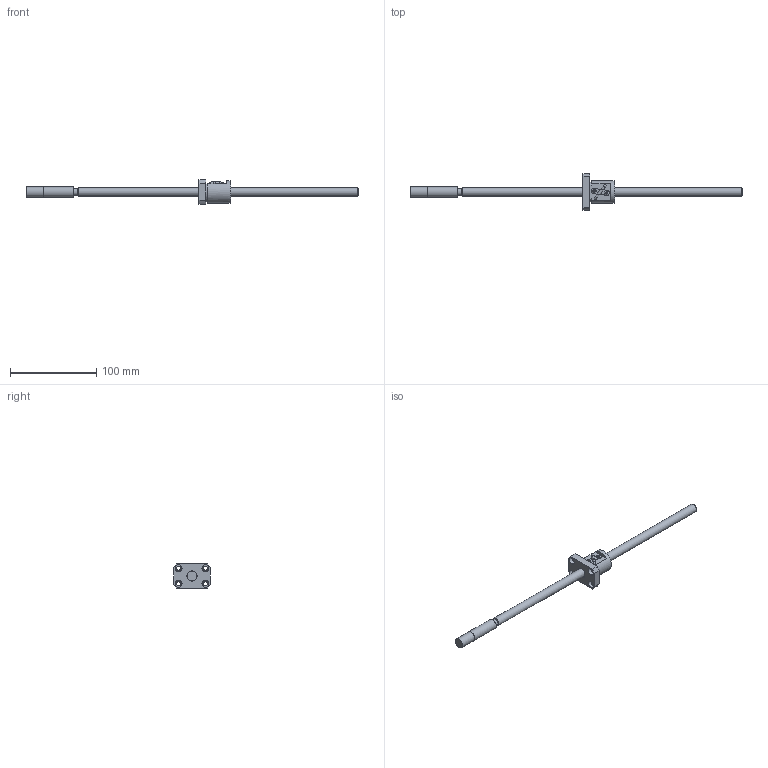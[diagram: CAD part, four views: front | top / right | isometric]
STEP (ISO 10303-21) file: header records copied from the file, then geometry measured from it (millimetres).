
FILE_DESCRIPTION((''),'2;1');
FILE_NAME('D:\製品 (図面)\カタログ用3D\ネジ関連\STEP形式\KBS(C)\KBS(C)1004-385.stp','2010-06-02T09:14:59',('Tsuchiya'),(''),'Autodesk Inventor 10','Autodesk Inventor 10','');
FILE_SCHEMA(('AUTOMOTIVE_DESIGN { 1 0 10303 214 1 1 1 1 }'));
Length unit declared in the file: millimetre
Products named in the file (3): KBS(C)1004-385; KBS(C)1004-3851; KBS(C)1004-3852
Assembly tree (2 placements, depth 2):
  KBS(C)1004-385
    KBS(C)1004-3851
    KBS(C)1004-3852
Bounding box: 385 x 42 x 28 mm (x, y, z)
Volume: 51058.6 mm3; surface area: 20304.6 mm2
Topology: 2 solids, 2 shells, 103 faces, 261 edges, 172 vertices
Faces by surface type: plane 42, cylinder 36, bspline 20, cone 3, torus 2
Full cylindrical faces by diameter (mm): 2.5 x1, 4.5 x4, 5.6 x1, 8 x4, 8.1 x1, 10 x2, 11.7 x1, 12 x3, 26 x1
Entity records: 3329 total; most frequent: CARTESIAN_POINT 934, ORIENTED_EDGE 456, DIRECTION 454, EDGE_CURVE 228, AXIS2_PLACEMENT_3D 170, VERTEX_POINT 166, EDGE_LOOP 156, VECTOR 114
